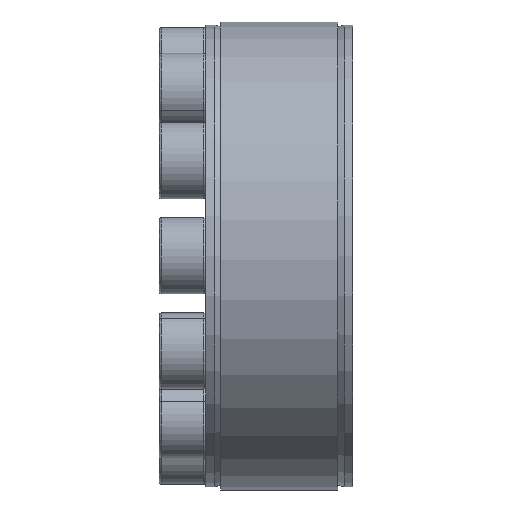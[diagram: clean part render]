
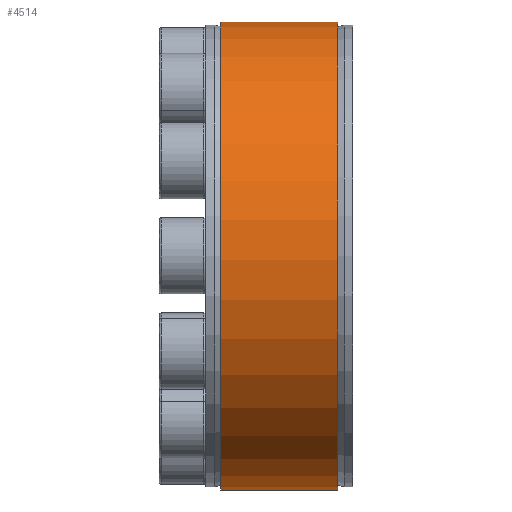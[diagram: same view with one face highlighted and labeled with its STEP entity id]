
A CAD part, front view. The second image highlights one B-rep face of the part: STEP entity #4514.
In plain terms, the highlighted cylindrical face has radius 40 mm (diameter 80 mm), a partial arc.
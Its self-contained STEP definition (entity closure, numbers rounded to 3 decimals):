
#2 = CARTESIAN_POINT ( 'NONE',  ( -13.426, 0., 0. ) ) ;
#5 = DIRECTION ( 'NONE',  ( 0., 0., 1. ) ) ;
#80 = VERTEX_POINT ( 'NONE', #3157 ) ;
#339 = DIRECTION ( 'NONE',  ( -1., 0., 0. ) ) ;
#362 = CARTESIAN_POINT ( 'NONE',  ( 10., 0., 0. ) ) ;
#742 = DIRECTION ( 'NONE',  ( 0., 0., 1. ) ) ;
#743 = FACE_OUTER_BOUND ( 'NONE', #1003, .T. ) ;
#1003 = EDGE_LOOP ( 'NONE', ( #2784, #1765, #1253, #6468 ) ) ;
#1253 = ORIENTED_EDGE ( 'NONE', *, *, #7042, .T. ) ;
#1765 = ORIENTED_EDGE ( 'NONE', *, *, #4806, .T. ) ;
#1855 = AXIS2_PLACEMENT_3D ( 'NONE', #7317, #7372, #7349 ) ;
#2123 = VECTOR ( 'NONE', #5758, 1000. ) ;
#2501 = AXIS2_PLACEMENT_3D ( 'NONE', #362, #339, #742 ) ;
#2784 = ORIENTED_EDGE ( 'NONE', *, *, #3431, .F. ) ;
#3102 = AXIS2_PLACEMENT_3D ( 'NONE', #2, #8661, #5 ) ;
#3157 = CARTESIAN_POINT ( 'NONE',  ( -10., 1.5, 39.972 ) ) ;
#3431 = EDGE_CURVE ( 'NONE', #80, #7014, #9091, .T. ) ;
#3994 = CYLINDRICAL_SURFACE ( 'NONE', #3102, 40. ) ;
#3997 = CARTESIAN_POINT ( 'NONE',  ( 10., 1.5, 39.972 ) ) ;
#4514 = ADVANCED_FACE ( 'NONE', ( #743 ), #3994, .T. ) ;
#4592 = LINE ( 'NONE', #5804, #2123 ) ;
#4806 = EDGE_CURVE ( 'NONE', #80, #8216, #4592, .T. ) ;
#4860 = EDGE_CURVE ( 'NONE', #8955, #7014, #7621, .T. ) ;
#5128 = DIRECTION ( 'NONE',  ( -1., 0., 0. ) ) ;
#5254 = CARTESIAN_POINT ( 'NONE',  ( -13.426, -1.5, 39.972 ) ) ;
#5579 = CIRCLE ( 'NONE', #2501, 40. ) ;
#5606 = VECTOR ( 'NONE', #5128, 1000. ) ;
#5758 = DIRECTION ( 'NONE',  ( 1., 0., 0. ) ) ;
#5804 = CARTESIAN_POINT ( 'NONE',  ( -13.426, 1.5, 39.972 ) ) ;
#5969 = CARTESIAN_POINT ( 'NONE',  ( -10., -1.5, 39.972 ) ) ;
#6468 = ORIENTED_EDGE ( 'NONE', *, *, #4860, .T. ) ;
#6958 = CARTESIAN_POINT ( 'NONE',  ( 10., -1.5, 39.972 ) ) ;
#7014 = VERTEX_POINT ( 'NONE', #5969 ) ;
#7042 = EDGE_CURVE ( 'NONE', #8216, #8955, #5579, .T. ) ;
#7317 = CARTESIAN_POINT ( 'NONE',  ( -10., 0., 0. ) ) ;
#7349 = DIRECTION ( 'NONE',  ( 0., 0., 1. ) ) ;
#7372 = DIRECTION ( 'NONE',  ( -1., 0., 0. ) ) ;
#7621 = LINE ( 'NONE', #5254, #5606 ) ;
#8216 = VERTEX_POINT ( 'NONE', #3997 ) ;
#8661 = DIRECTION ( 'NONE',  ( -1., 0., 0. ) ) ;
#8955 = VERTEX_POINT ( 'NONE', #6958 ) ;
#9091 = CIRCLE ( 'NONE', #1855, 40. ) ;
